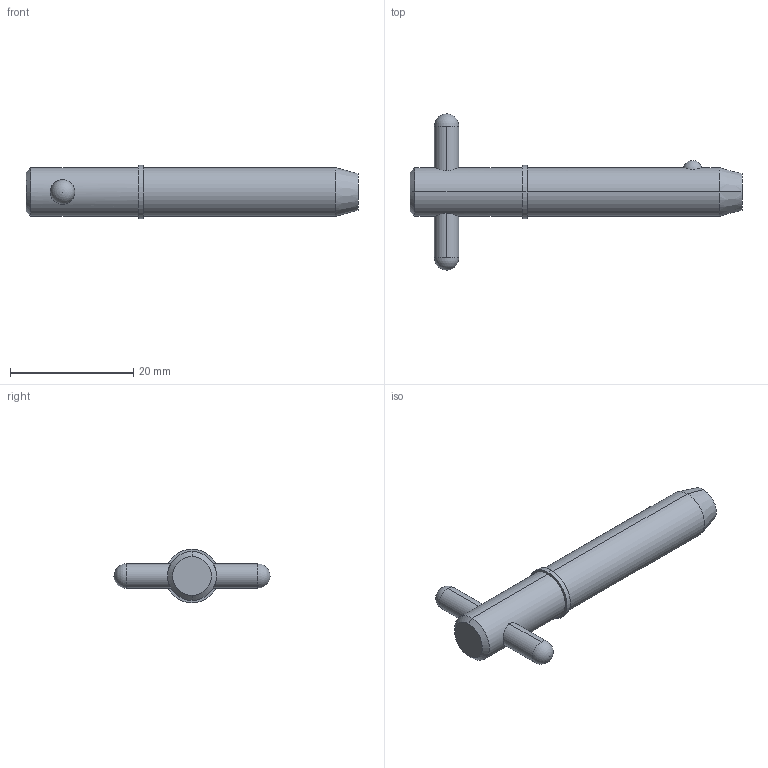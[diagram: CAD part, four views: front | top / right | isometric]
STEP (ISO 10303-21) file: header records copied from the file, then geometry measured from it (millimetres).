
FILE_DESCRIPTION (( 'STEP AP203' ), '1' );
FILE_NAME ('33018.W3110.step', '2024-11-19T17:09:13', ( '' ), ( '' ), 'SwSTEP 2.0', 'SolidWorks 2019', '' );
FILE_SCHEMA (( 'CONFIG_CONTROL_DESIGN' ));
Length unit declared in the file: millimetre
Products named in the file (3): Part2_33018.W3110; 33018.W3110; Part1_33018.W3110
Assembly tree (2 placements, depth 2):
  33018.W3110
    Part1_33018.W3110
    Part2_33018.W3110
Bounding box: 53.98 x 25.4 x 8.73 mm (x, y, z)
Volume: 2839 mm3; surface area: 1813.6 mm2
Topology: 2 solids, 2 shells, 22 faces, 47 edges, 30 vertices
Faces by surface type: cylinder 10, sphere 4, cone 4, plane 4
Entity records: 1013 total; most frequent: CARTESIAN_POINT 256, DIRECTION 110, ORIENTED_EDGE 82, AXIS2_PLACEMENT_3D 48, EDGE_CURVE 41, EDGE_LOOP 27, VERTEX_POINT 26, PERSON_AND_ORGANIZATION 26
